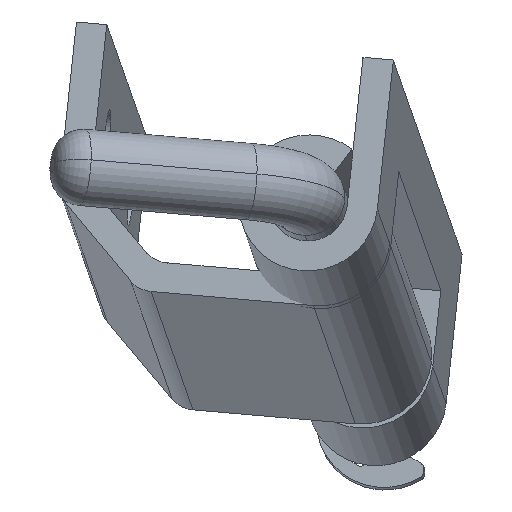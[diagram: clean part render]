
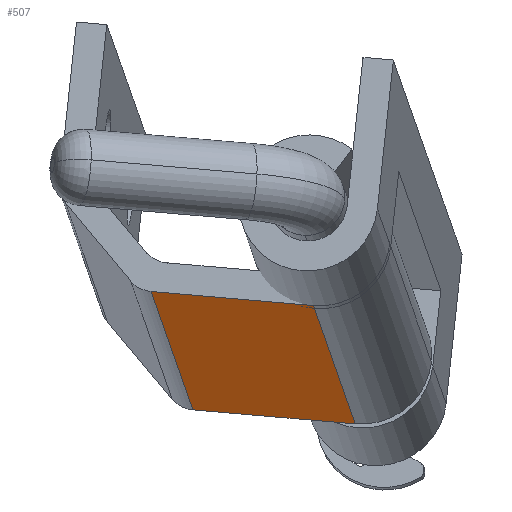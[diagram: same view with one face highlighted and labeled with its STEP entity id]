
A CAD part, top view. The second image highlights one B-rep face of the part: STEP entity #507.
In plain terms, the highlighted planar face has unit normal (-0.104, -0.974, 0.204) as drawn and (0, -1, 0) by its records, which use the part's own axes.
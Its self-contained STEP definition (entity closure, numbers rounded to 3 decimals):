
#151 = EDGE_CURVE ( 'NONE', #155, #157, #794, .T. ) ;
#155 = VERTEX_POINT ( 'NONE', #771 ) ;
#157 = VERTEX_POINT ( 'NONE', #820 ) ;
#397 = ORIENTED_EDGE ( 'NONE', *, *, #440, .T. ) ;
#433 = EDGE_CURVE ( 'NONE', #434, #436, #1318, .T. ) ;
#434 = VERTEX_POINT ( 'NONE', #1314 ) ;
#436 = VERTEX_POINT ( 'NONE', #1359 ) ;
#440 = EDGE_CURVE ( 'NONE', #436, #157, #1351, .T. ) ;
#452 = EDGE_LOOP ( 'NONE', ( #397, #508, #510, #511 ) ) ;
#506 = EDGE_CURVE ( 'NONE', #434, #155, #1416, .T. ) ;
#507 = ADVANCED_FACE ( 'NONE', ( #1423 ), #1367, .F. ) ;
#508 = ORIENTED_EDGE ( 'NONE', *, *, #151, .F. ) ;
#510 = ORIENTED_EDGE ( 'NONE', *, *, #506, .F. ) ;
#511 = ORIENTED_EDGE ( 'NONE', *, *, #433, .T. ) ;
#771 = CARTESIAN_POINT ( 'NONE',  ( 0., -4.55, 36.2 ) ) ;
#774 = DIRECTION ( 'NONE',  ( 0., 0., -1. ) ) ;
#775 = VECTOR ( 'NONE', #774, 1000. ) ;
#786 = CARTESIAN_POINT ( 'NONE',  ( 0., -4.55, 36.2 ) ) ;
#794 = LINE ( 'NONE', #786, #775 ) ;
#820 = CARTESIAN_POINT ( 'NONE',  ( 0., -4.55, 0. ) ) ;
#1305 = DIRECTION ( 'NONE',  ( 0., 0., -1. ) ) ;
#1312 = VECTOR ( 'NONE', #1305, 1000. ) ;
#1313 = CARTESIAN_POINT ( 'NONE',  ( -10.697, -4.55, 36.2 ) ) ;
#1314 = CARTESIAN_POINT ( 'NONE',  ( -10.697, -4.55, 36.2 ) ) ;
#1318 = LINE ( 'NONE', #1313, #1312 ) ;
#1348 = DIRECTION ( 'NONE',  ( 1., 0., 0. ) ) ;
#1349 = VECTOR ( 'NONE', #1348, 1000. ) ;
#1350 = CARTESIAN_POINT ( 'NONE',  ( -10.697, -4.55, 0. ) ) ;
#1351 = LINE ( 'NONE', #1350, #1349 ) ;
#1359 = CARTESIAN_POINT ( 'NONE',  ( -10.697, -4.55, 0. ) ) ;
#1365 = CARTESIAN_POINT ( 'NONE',  ( -10.697, -4.55, 36.2 ) ) ;
#1366 = AXIS2_PLACEMENT_3D ( 'NONE', #1427, #1404, #1403 ) ;
#1367 = PLANE ( 'NONE',  #1366 ) ;
#1403 = DIRECTION ( 'NONE',  ( -1., 0., 0. ) ) ;
#1404 = DIRECTION ( 'NONE',  ( 0., 1., 0. ) ) ;
#1409 = DIRECTION ( 'NONE',  ( 1., 0., 0. ) ) ;
#1410 = VECTOR ( 'NONE', #1409, 1000. ) ;
#1416 = LINE ( 'NONE', #1365, #1410 ) ;
#1423 = FACE_OUTER_BOUND ( 'NONE', #452, .T. ) ;
#1427 = CARTESIAN_POINT ( 'NONE',  ( -10.697, -4.55, 36.2 ) ) ;
